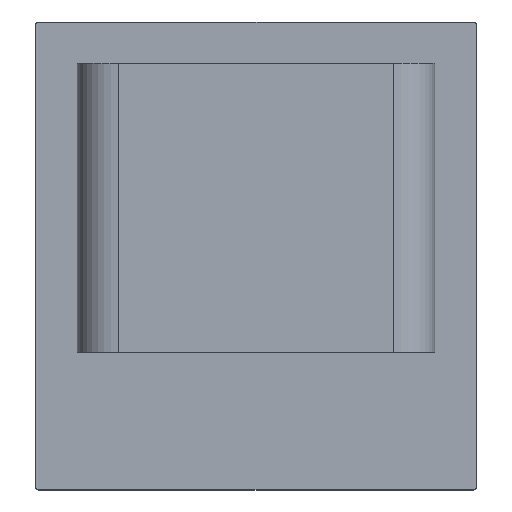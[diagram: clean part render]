
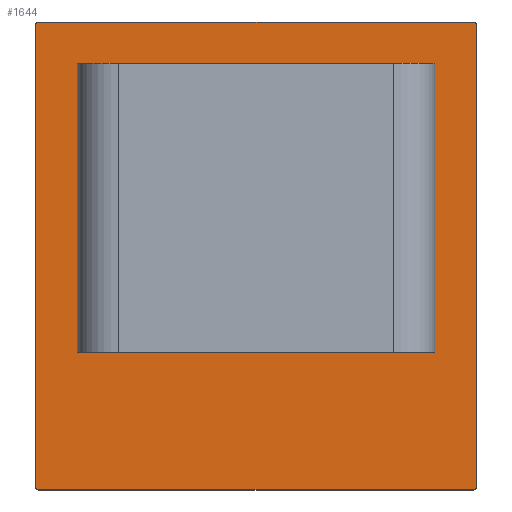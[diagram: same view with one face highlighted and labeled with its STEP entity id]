
A CAD part, top view. The second image highlights one B-rep face of the part: STEP entity #1644.
In plain terms, the highlighted planar face has unit normal (0, 0, 1).
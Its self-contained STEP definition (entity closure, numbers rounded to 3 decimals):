
#1 = CARTESIAN_POINT ( 'NONE',  ( -160., -170., 2.5 ) ) ;
#7 = CARTESIAN_POINT ( 'NONE',  ( 0., 86., 2.5 ) ) ;
#34 = VERTEX_POINT ( 'NONE', #1804 ) ;
#80 = AXIS2_PLACEMENT_3D ( 'NONE', #936, #941, #1251 ) ;
#104 = DIRECTION ( 'NONE',  ( 0., -1., 0. ) ) ;
#122 = DIRECTION ( 'NONE',  ( 0., 0., 1. ) ) ;
#139 = DIRECTION ( 'NONE',  ( 0., -1., 0. ) ) ;
#140 = LINE ( 'NONE', #1648, #492 ) ;
#165 = CIRCLE ( 'NONE', #1464, 2. ) ;
#175 = ORIENTED_EDGE ( 'NONE', *, *, #358, .T. ) ;
#183 = FACE_BOUND ( 'NONE', #967, .T. ) ;
#223 = ORIENTED_EDGE ( 'NONE', *, *, #454, .T. ) ;
#239 = ORIENTED_EDGE ( 'NONE', *, *, #1685, .F. ) ;
#267 = CARTESIAN_POINT ( 'NONE',  ( -160., 170., 2.5 ) ) ;
#318 = CARTESIAN_POINT ( 'NONE',  ( 0., 35., 2.5 ) ) ;
#331 = DIRECTION ( 'NONE',  ( 0., 0., 1. ) ) ;
#342 = ORIENTED_EDGE ( 'NONE', *, *, #494, .T. ) ;
#358 = EDGE_CURVE ( 'NONE', #1616, #1237, #591, .T. ) ;
#368 = VERTEX_POINT ( 'NONE', #1667 ) ;
#372 = PLANE ( 'NONE',  #807 ) ;
#400 = CARTESIAN_POINT ( 'NONE',  ( 158., 168., 2.5 ) ) ;
#436 = EDGE_LOOP ( 'NONE', ( #842, #598, #1141, #223, #1733, #175, #1487, #342 ) ) ;
#454 = EDGE_CURVE ( 'NONE', #368, #601, #1003, .T. ) ;
#464 = VECTOR ( 'NONE', #139, 1000. ) ;
#492 = VECTOR ( 'NONE', #1516, 1000. ) ;
#494 = EDGE_CURVE ( 'NONE', #1500, #1824, #1753, .T. ) ;
#520 = EDGE_CURVE ( 'NONE', #34, #1297, #165, .T. ) ;
#541 = CARTESIAN_POINT ( 'NONE',  ( -160., 168., 2.5 ) ) ;
#566 = DIRECTION ( 'NONE',  ( 0., 0., 1. ) ) ;
#591 = CIRCLE ( 'NONE', #80, 2. ) ;
#598 = ORIENTED_EDGE ( 'NONE', *, *, #520, .T. ) ;
#601 = VERTEX_POINT ( 'NONE', #1556 ) ;
#616 = CARTESIAN_POINT ( 'NONE',  ( 160., 170., 2.5 ) ) ;
#739 = CIRCLE ( 'NONE', #1080, 51. ) ;
#755 = LINE ( 'NONE', #267, #464 ) ;
#768 = AXIS2_PLACEMENT_3D ( 'NONE', #991, #821, #1261 ) ;
#804 = VERTEX_POINT ( 'NONE', #898 ) ;
#807 = AXIS2_PLACEMENT_3D ( 'NONE', #1440, #566, #1541 ) ;
#821 = DIRECTION ( 'NONE',  ( 0., 0., 1. ) ) ;
#842 = ORIENTED_EDGE ( 'NONE', *, *, #1375, .T. ) ;
#851 = CARTESIAN_POINT ( 'NONE',  ( 160., -168., 2.5 ) ) ;
#884 = EDGE_CURVE ( 'NONE', #1297, #368, #1749, .T. ) ;
#887 = CARTESIAN_POINT ( 'NONE',  ( 0., 35., 2.5 ) ) ;
#898 = CARTESIAN_POINT ( 'NONE',  ( 0., -16., 2.5 ) ) ;
#936 = CARTESIAN_POINT ( 'NONE',  ( -158., 168., 2.5 ) ) ;
#941 = DIRECTION ( 'NONE',  ( 0., 0., 1. ) ) ;
#967 = EDGE_LOOP ( 'NONE', ( #239, #1191 ) ) ;
#969 = EDGE_CURVE ( 'NONE', #601, #1616, #140, .T. ) ;
#973 = DIRECTION ( 'NONE',  ( 0., 0., 1. ) ) ;
#991 = CARTESIAN_POINT ( 'NONE',  ( -158., -168., 2.5 ) ) ;
#1003 = CIRCLE ( 'NONE', #1290, 2. ) ;
#1018 = VECTOR ( 'NONE', #1355, 1000. ) ;
#1033 = DIRECTION ( 'NONE',  ( 0., -1., 0. ) ) ;
#1039 = FACE_OUTER_BOUND ( 'NONE', #436, .T. ) ;
#1058 = CARTESIAN_POINT ( 'NONE',  ( -158., -170., 2.5 ) ) ;
#1080 = AXIS2_PLACEMENT_3D ( 'NONE', #887, #122, #1033 ) ;
#1089 = VECTOR ( 'NONE', #1472, 1000. ) ;
#1115 = CARTESIAN_POINT ( 'NONE',  ( -158., 170., 2.5 ) ) ;
#1141 = ORIENTED_EDGE ( 'NONE', *, *, #884, .T. ) ;
#1191 = ORIENTED_EDGE ( 'NONE', *, *, #1764, .F. ) ;
#1237 = VERTEX_POINT ( 'NONE', #541 ) ;
#1251 = DIRECTION ( 'NONE',  ( 0., -1., 0. ) ) ;
#1261 = DIRECTION ( 'NONE',  ( 0., -1., 0. ) ) ;
#1290 = AXIS2_PLACEMENT_3D ( 'NONE', #400, #973, #1423 ) ;
#1297 = VERTEX_POINT ( 'NONE', #851 ) ;
#1298 = EDGE_CURVE ( 'NONE', #1237, #1500, #755, .T. ) ;
#1355 = DIRECTION ( 'NONE',  ( 1., 0., 0. ) ) ;
#1368 = CARTESIAN_POINT ( 'NONE',  ( -160., -168., 2.5 ) ) ;
#1375 = EDGE_CURVE ( 'NONE', #1824, #34, #1402, .T. ) ;
#1390 = AXIS2_PLACEMENT_3D ( 'NONE', #318, #331, #1608 ) ;
#1402 = LINE ( 'NONE', #1, #1018 ) ;
#1423 = DIRECTION ( 'NONE',  ( 0., -1., 0. ) ) ;
#1435 = CARTESIAN_POINT ( 'NONE',  ( 158., -168., 2.5 ) ) ;
#1440 = CARTESIAN_POINT ( 'NONE',  ( 0., 0., 2.5 ) ) ;
#1443 = DIRECTION ( 'NONE',  ( 0., 0., 1. ) ) ;
#1464 = AXIS2_PLACEMENT_3D ( 'NONE', #1435, #1443, #104 ) ;
#1472 = DIRECTION ( 'NONE',  ( 0., 1., 0. ) ) ;
#1487 = ORIENTED_EDGE ( 'NONE', *, *, #1298, .T. ) ;
#1500 = VERTEX_POINT ( 'NONE', #1368 ) ;
#1516 = DIRECTION ( 'NONE',  ( -1., 0., 0. ) ) ;
#1541 = DIRECTION ( 'NONE',  ( 0., -1., 0. ) ) ;
#1556 = CARTESIAN_POINT ( 'NONE',  ( 158., 170., 2.5 ) ) ;
#1608 = DIRECTION ( 'NONE',  ( 0., -1., 0. ) ) ;
#1616 = VERTEX_POINT ( 'NONE', #1115 ) ;
#1644 = ADVANCED_FACE ( 'NONE', ( #183, #1039 ), #372, .T. ) ;
#1648 = CARTESIAN_POINT ( 'NONE',  ( -160., 170., 2.5 ) ) ;
#1667 = CARTESIAN_POINT ( 'NONE',  ( 160., 168., 2.5 ) ) ;
#1685 = EDGE_CURVE ( 'NONE', #804, #1779, #739, .T. ) ;
#1733 = ORIENTED_EDGE ( 'NONE', *, *, #969, .T. ) ;
#1749 = LINE ( 'NONE', #616, #1089 ) ;
#1753 = CIRCLE ( 'NONE', #768, 2. ) ;
#1764 = EDGE_CURVE ( 'NONE', #1779, #804, #1833, .T. ) ;
#1779 = VERTEX_POINT ( 'NONE', #7 ) ;
#1804 = CARTESIAN_POINT ( 'NONE',  ( 158., -170., 2.5 ) ) ;
#1824 = VERTEX_POINT ( 'NONE', #1058 ) ;
#1833 = CIRCLE ( 'NONE', #1390, 51. ) ;
